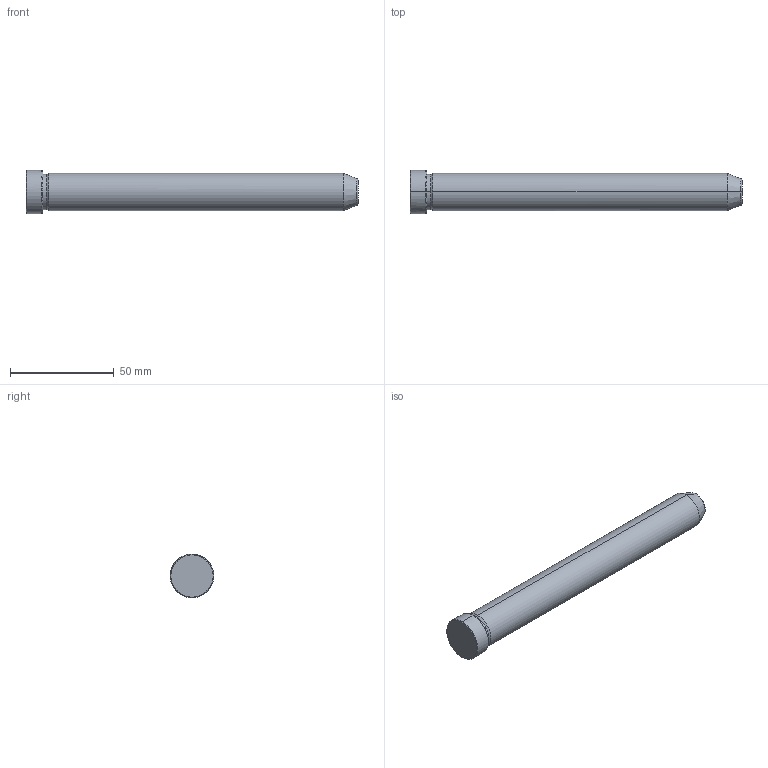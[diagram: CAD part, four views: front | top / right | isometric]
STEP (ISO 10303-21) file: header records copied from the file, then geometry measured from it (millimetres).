
FILE_DESCRIPTION(('CATIA V5 STEP Exchange'),'2;1');
FILE_NAME('C:\Users\Utente\Desktop\IO LAVORO\3D X SITO CF\X SITO\PLASTICA\549\549-18X160.stp','2021-12-11T09:40:27+00:00',('none'),('none'),'CATIA Version 5 Release 20 GA (IN-10)','CATIA V5 STEP AP203','none');
FILE_SCHEMA(('CONFIG_CONTROL_DESIGN'));
Length unit declared in the file: millimetre
Products named in the file (1): 549-18X160
Bounding box: 160 x 21 x 21 mm (x, y, z)
Volume: 40873.1 mm3; surface area: 9642.4 mm2
Topology: 1 solids, 1 shells, 19 faces, 56 edges, 40 vertices
Faces by surface type: cone 8, cylinder 6, plane 3, torus 2
Entity records: 736 total; most frequent: CARTESIAN_POINT 192, ORIENTED_EDGE 112, DIRECTION 86, EDGE_CURVE 56, AXIS2_PLACEMENT_3D 54, VERTEX_POINT 40, CIRCLE 34, EDGE_LOOP 20
